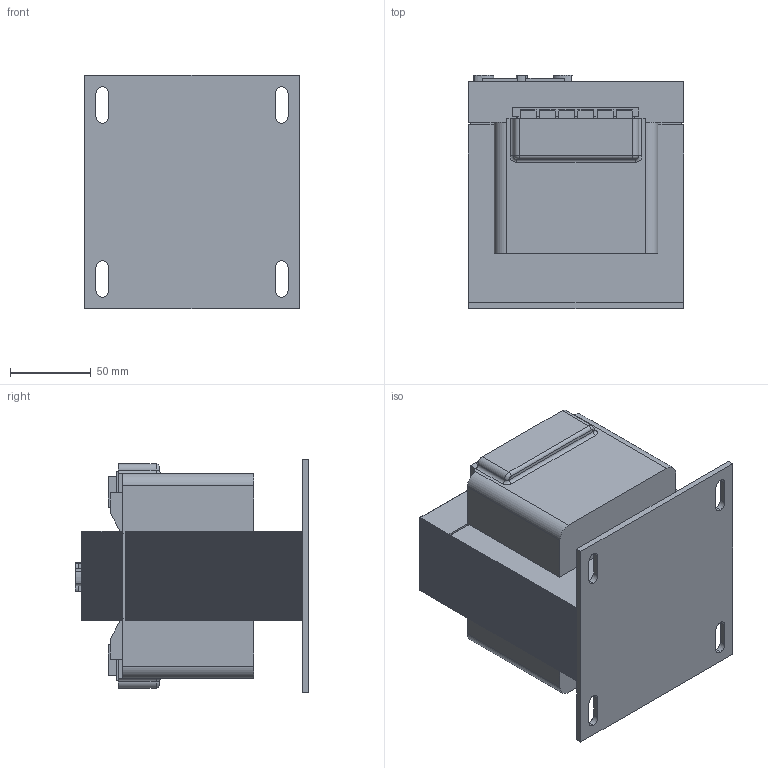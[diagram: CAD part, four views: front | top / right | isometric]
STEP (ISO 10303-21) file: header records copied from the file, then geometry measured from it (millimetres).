
FILE_DESCRIPTION (( 'STEP AP203' ), '1' );
FILE_NAME ('MT-CTX-690V-40VA-230V.STEP', '2024-04-10T21:58:29', ( '' ), ( '' ), 'SwSTEP 2.0', 'SolidWorks 2020', '' );
FILE_SCHEMA (( 'CONFIG_CONTROL_DESIGN' ));
Length unit declared in the file: inch
Products named in the file (1): MT-CTX-690V-40VA-230V
Bounding box: 133.6 x 144.94 x 144.69 mm (x, y, z)
Volume: 1714404.5 mm3; surface area: 145686.3 mm2
Topology: 4 solids, 4 shells, 1960 faces, 5842 edges, 3836 vertices
Faces by surface type: plane 1828, cylinder 117, torus 8, bspline 7
Entity records: 64734 total; most frequent: CARTESIAN_POINT 11754, ORIENTED_EDGE 11684, DIRECTION 9974, EDGE_CURVE 5842, VECTOR 5582, LINE 5582, VERTEX_POINT 3836, AXIS2_PLACEMENT_3D 2196
